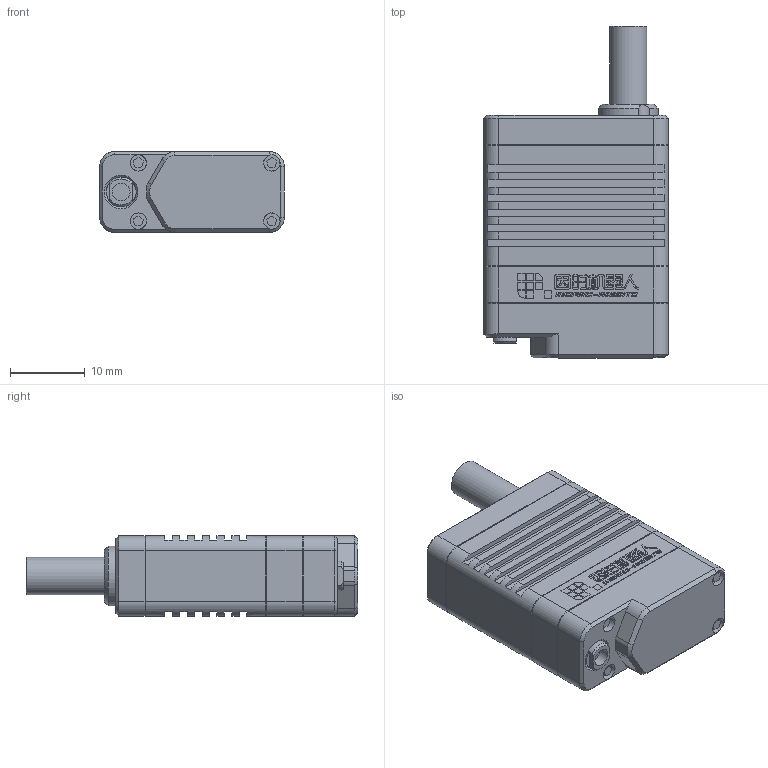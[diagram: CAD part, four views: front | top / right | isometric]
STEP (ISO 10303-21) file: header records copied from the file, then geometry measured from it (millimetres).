
FILE_DESCRIPTION (( 'STEP AP203' ), '1' );
FILE_NAME ('LAS10-0x1D-1129.STEP', '2023-11-29T10:35:35', ( '' ), ( '' ), '' );
FILE_SCHEMA (( 'CONFIG_CONTROL_DESIGN' ));
Length unit declared in the file: millimetre
Products named in the file (3): exA820109-015祥凄詩杶奪; LAS10-0x1D-1129; Part1^LAS10-0x1D
Assembly tree (2 placements, depth 2):
  LAS10-0x1D-1129
    exA820109-015祥凄詩杶奪
    Part1^LAS10-0x1D
Bounding box: 24.8 x 44.5 x 10.82 mm (x, y, z)
Volume: 8234.2 mm3; surface area: 3681.1 mm2
Topology: 2 solids, 2 shells, 1314 faces, 3511 edges, 2306 vertices
Faces by surface type: plane 797, bspline 416, cylinder 43, cone 42, torus 16
Full cylindrical faces by diameter (mm): 2 x4, 2.17 x4, 2.2 x8, 2.4 x1, 2.5 x1, 4 x1, 5 x2
Entity records: 42934 total; most frequent: CARTESIAN_POINT 12845, ORIENTED_EDGE 6940, DIRECTION 4611, EDGE_CURVE 3470, VECTOR 2381, LINE 2381, VERTEX_POINT 2291, EDGE_LOOP 1445
